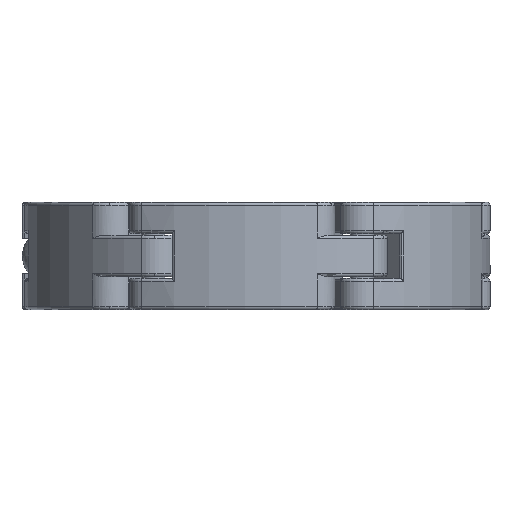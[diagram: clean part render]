
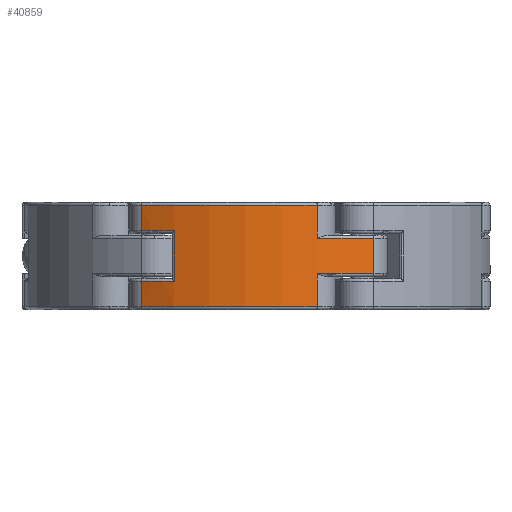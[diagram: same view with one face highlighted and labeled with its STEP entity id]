
A CAD part, left-side view. The second image highlights one B-rep face of the part: STEP entity #40859.
In plain terms, the highlighted cylindrical face has radius 39 mm (diameter 78 mm), a partial arc.
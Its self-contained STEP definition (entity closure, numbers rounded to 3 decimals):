
#1435=CARTESIAN_POINT('',(-33.775,19.5,8.5));
#1436=VERTEX_POINT('',#1435);
#1488=CARTESIAN_POINT('',(-37.693,-10.012,8.5));
#1489=VERTEX_POINT('',#1488);
#1681=CARTESIAN_POINT('',(-33.775,19.5,-4.25));
#1682=VERTEX_POINT('',#1681);
#1822=CARTESIAN_POINT('',(-33.775,19.5,4.25));
#1823=VERTEX_POINT('',#1822);
#1941=CARTESIAN_POINT('',(-37.693,-10.012,-8.5));
#1942=VERTEX_POINT('',#1941);
#1994=CARTESIAN_POINT('',(-33.775,19.5,-8.5));
#1995=VERTEX_POINT('',#1994);
#2029=CARTESIAN_POINT('',(-33.775,-19.5,-3.));
#2030=VERTEX_POINT('',#2029);
#2082=CARTESIAN_POINT('',(-33.775,-19.5,3.));
#2083=VERTEX_POINT('',#2082);
#40549=CARTESIAN_POINT('',(-37.693,-10.012,3.));
#40550=VERTEX_POINT('',#40549);
#40586=CARTESIAN_POINT('',(0.0,0.0,3.));
#40587=DIRECTION('',(0.0,0.0,-1.0));
#40588=DIRECTION('',(-0.866,0.5,0.0));
#40589=AXIS2_PLACEMENT_3D('',#40586,#40587,#40588);
#40590=CIRCLE('',#40589,39.);
#40591=EDGE_CURVE('',#40550,#2083,#40590,.F.);
#40760=CARTESIAN_POINT('',(-33.775,-19.5,-3.));
#40761=DIRECTION('',(0.0,0.0,1.0));
#40762=VECTOR('',#40761,6.);
#40763=LINE('',#40760,#40762);
#40764=EDGE_CURVE('',#2083,#2030,#40763,.F.);
#40779=CARTESIAN_POINT('',(0.0,0.0,0.0));
#40780=DIRECTION('',(0.0,0.0,-1.0));
#40781=DIRECTION('',(-0.866,0.5,0.0));
#40782=AXIS2_PLACEMENT_3D('',#40779,#40780,#40781);
#40783=CYLINDRICAL_SURFACE('',#40782,39.);
#40784=ORIENTED_EDGE('',*,*,#40591,.F.);
#40785=CARTESIAN_POINT('',(-37.693,-10.012,8.5));
#40786=DIRECTION('',(0.0,0.0,-1.0));
#40787=VECTOR('',#40786,5.5);
#40788=LINE('',#40785,#40787);
#40789=EDGE_CURVE('',#40550,#1489,#40788,.F.);
#40790=ORIENTED_EDGE('',*,*,#40789,.T.);
#40791=CARTESIAN_POINT('',(0.0,0.0,8.5));
#40792=DIRECTION('',(0.0,0.0,-1.0));
#40793=DIRECTION('',(-0.866,0.5,0.0));
#40794=AXIS2_PLACEMENT_3D('',#40791,#40792,#40793);
#40795=CIRCLE('',#40794,39.);
#40796=EDGE_CURVE('',#1436,#1489,#40795,.F.);
#40797=ORIENTED_EDGE('',*,*,#40796,.F.);
#40798=CARTESIAN_POINT('',(-33.775,19.5,8.5));
#40799=DIRECTION('',(0.0,0.0,-1.0));
#40800=VECTOR('',#40799,4.25);
#40801=LINE('',#40798,#40800);
#40802=EDGE_CURVE('',#1823,#1436,#40801,.F.);
#40803=ORIENTED_EDGE('',*,*,#40802,.F.);
#40804=CARTESIAN_POINT('',(-36.399,14.003,4.25));
#40805=VERTEX_POINT('',#40804);
#40806=CARTESIAN_POINT('',(0.0,0.0,4.25));
#40807=DIRECTION('',(0.0,0.0,-1.0));
#40808=DIRECTION('',(-0.866,0.5,0.0));
#40809=AXIS2_PLACEMENT_3D('',#40806,#40807,#40808);
#40810=CIRCLE('',#40809,39.);
#40811=EDGE_CURVE('',#40805,#1823,#40810,.T.);
#40812=ORIENTED_EDGE('',*,*,#40811,.F.);
#40813=CARTESIAN_POINT('',(-36.399,14.003,-4.25));
#40814=VERTEX_POINT('',#40813);
#40815=CARTESIAN_POINT('',(-36.399,14.003,4.25));
#40816=DIRECTION('',(0.0,0.0,-1.0));
#40817=VECTOR('',#40816,8.5);
#40818=LINE('',#40815,#40817);
#40819=EDGE_CURVE('',#40814,#40805,#40818,.F.);
#40820=ORIENTED_EDGE('',*,*,#40819,.F.);
#40821=CARTESIAN_POINT('',(0.0,0.0,-4.25));
#40822=DIRECTION('',(0.0,0.0,-1.0));
#40823=DIRECTION('',(-0.866,0.5,0.0));
#40824=AXIS2_PLACEMENT_3D('',#40821,#40822,#40823);
#40825=CIRCLE('',#40824,39.);
#40826=EDGE_CURVE('',#1682,#40814,#40825,.F.);
#40827=ORIENTED_EDGE('',*,*,#40826,.F.);
#40828=CARTESIAN_POINT('',(-33.775,19.5,-4.25));
#40829=DIRECTION('',(0.0,0.0,-1.0));
#40830=VECTOR('',#40829,4.25);
#40831=LINE('',#40828,#40830);
#40832=EDGE_CURVE('',#1995,#1682,#40831,.F.);
#40833=ORIENTED_EDGE('',*,*,#40832,.F.);
#40834=CARTESIAN_POINT('',(0.0,0.0,-8.5));
#40835=DIRECTION('',(0.0,0.0,-1.0));
#40836=DIRECTION('',(-0.866,0.5,0.0));
#40837=AXIS2_PLACEMENT_3D('',#40834,#40835,#40836);
#40838=CIRCLE('',#40837,39.);
#40839=EDGE_CURVE('',#1942,#1995,#40838,.T.);
#40840=ORIENTED_EDGE('',*,*,#40839,.F.);
#40841=CARTESIAN_POINT('',(-37.693,-10.012,-3.));
#40842=VERTEX_POINT('',#40841);
#40843=CARTESIAN_POINT('',(-37.693,-10.012,-3.));
#40844=DIRECTION('',(0.0,0.0,-1.0));
#40845=VECTOR('',#40844,5.5);
#40846=LINE('',#40843,#40845);
#40847=EDGE_CURVE('',#40842,#1942,#40846,.T.);
#40848=ORIENTED_EDGE('',*,*,#40847,.F.);
#40849=CARTESIAN_POINT('',(0.0,0.0,-3.));
#40850=DIRECTION('',(0.0,0.0,-1.0));
#40851=DIRECTION('',(-0.866,0.5,0.0));
#40852=AXIS2_PLACEMENT_3D('',#40849,#40850,#40851);
#40853=CIRCLE('',#40852,39.);
#40854=EDGE_CURVE('',#2030,#40842,#40853,.T.);
#40855=ORIENTED_EDGE('',*,*,#40854,.F.);
#40856=ORIENTED_EDGE('',*,*,#40764,.F.);
#40857=EDGE_LOOP('',(#40784,#40790,#40797,#40803,#40812,#40820,#40827,#40833,#40840,#40848,#40855,#40856));
#40858=FACE_OUTER_BOUND('',#40857,.T.);
#40859=ADVANCED_FACE('',(#40858),#40783,.T.);
